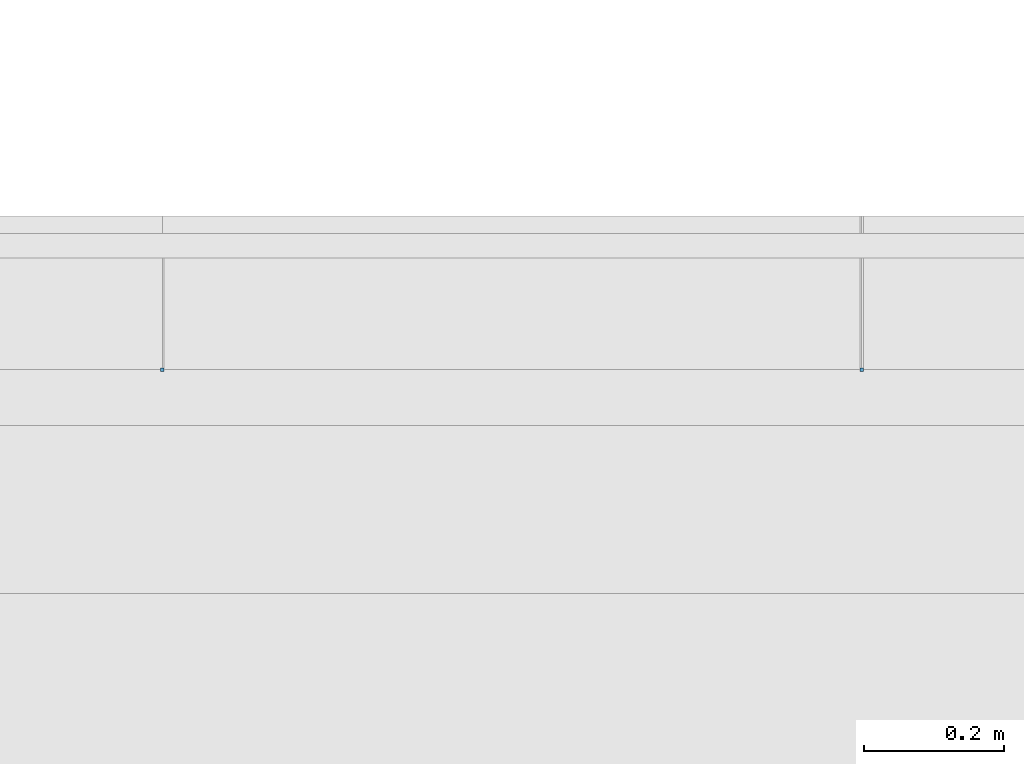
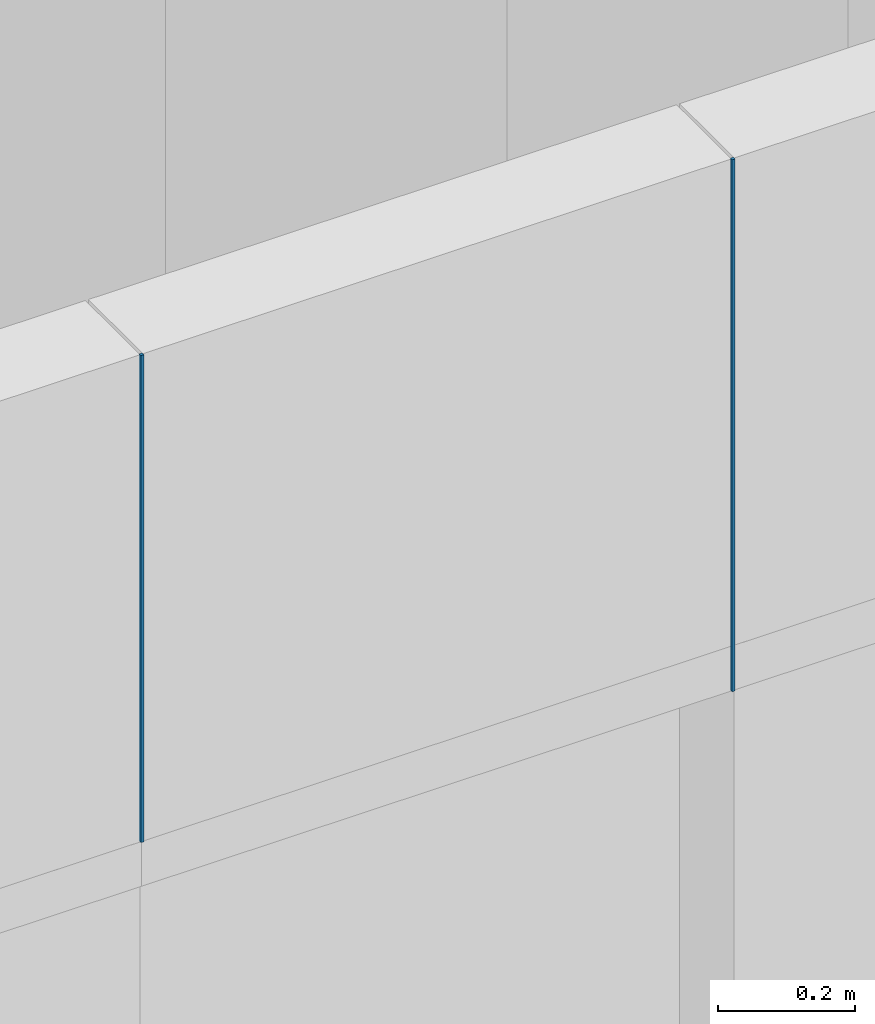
# One storey, part 204 of 302: 2 members, 1 element without a shape of its own.
"""IFC2X3 building model written with IfcOpenShell, lengths in metres."""

from ifc_helpers import new_model, entity, si_unit, converted_unit, derived_unit, direction, frame, frame_2d, origin, place, context, subcontext, project, spatial, rectangle, extrude, source, transform, mapped, material, type_object, type_shapes, element, aggregate, save


model = new_model("IFC2X3")

# Units and contexts
model_context = context("Model", 3, precision=1e-05, world=origin(), true_north=direction((6.12303176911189e-17, 1.0)))
body_context = subcontext(model_context, "Body", "Model", "MODEL_VIEW")
ifc_project = project(units=[si_unit("LENGTHUNIT", "METRE"), si_unit("AREAUNIT", "SQUARE_METRE"), si_unit("VOLUMEUNIT", "CUBIC_METRE"), converted_unit("PLANEANGLEUNIT", "DEGREE", entity("IfcRatioMeasure", 0.0174532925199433), si_unit("PLANEANGLEUNIT", "RADIAN"), dimensions=[0, 0, 0, 0, 0, 0, 0]), si_unit("MASSUNIT", "GRAM", prefix="KILO"), derived_unit("MASSDENSITYUNIT", [(si_unit("MASSUNIT", "GRAM", prefix="KILO"), 1), (si_unit("LENGTHUNIT", "METRE"), -3)]), derived_unit("MOMENTOFINERTIAUNIT", [(si_unit("LENGTHUNIT", "METRE"), 4)]), si_unit("TIMEUNIT", "SECOND"), si_unit("FREQUENCYUNIT", "HERTZ"), si_unit("THERMODYNAMICTEMPERATUREUNIT", "DEGREE_CELSIUS"), derived_unit("THERMALTRANSMITTANCEUNIT", [(si_unit("MASSUNIT", "GRAM", prefix="KILO"), 1), (si_unit("THERMODYNAMICTEMPERATUREUNIT", "KELVIN"), -1), (si_unit("TIMEUNIT", "SECOND"), -3)]), derived_unit("VOLUMETRICFLOWRATEUNIT", [(si_unit("LENGTHUNIT", "METRE"), 3), (si_unit("TIMEUNIT", "SECOND"), -1)]), si_unit("ELECTRICCURRENTUNIT", "AMPERE"), si_unit("ELECTRICVOLTAGEUNIT", "VOLT"), si_unit("POWERUNIT", "WATT"), si_unit("FORCEUNIT", "NEWTON", prefix="KILO"), si_unit("ILLUMINANCEUNIT", "LUX"), si_unit("LUMINOUSFLUXUNIT", "LUMEN"), si_unit("LUMINOUSINTENSITYUNIT", "CANDELA"), derived_unit("USERDEFINED", [(si_unit("MASSUNIT", "GRAM", prefix="KILO"), -1), (si_unit("LENGTHUNIT", "METRE"), -2), (si_unit("TIMEUNIT", "SECOND"), 3), (si_unit("LUMINOUSFLUXUNIT", "LUMEN"), 1)]), derived_unit("LINEARVELOCITYUNIT", [(si_unit("LENGTHUNIT", "METRE"), 1), (si_unit("TIMEUNIT", "SECOND"), -1)]), si_unit("PRESSUREUNIT", "PASCAL"), derived_unit("USERDEFINED", [(si_unit("LENGTHUNIT", "METRE"), -2), (si_unit("MASSUNIT", "GRAM", prefix="KILO"), 1), (si_unit("TIMEUNIT", "SECOND"), -2)]), derived_unit("LINEARFORCEUNIT", [(si_unit("MASSUNIT", "GRAM", prefix="KILO"), 1), (si_unit("LENGTHUNIT", "METRE"), 1), (si_unit("TIMEUNIT", "SECOND"), -2), (si_unit("LENGTHUNIT", "METRE"), -1)]), derived_unit("PLANARFORCEUNIT", [(si_unit("MASSUNIT", "GRAM", prefix="KILO"), 1), (si_unit("LENGTHUNIT", "METRE"), 1), (si_unit("TIMEUNIT", "SECOND"), -2), (si_unit("LENGTHUNIT", "METRE"), -2)])], contexts=[model_context])

# Site, building, storey
site_placement = place(None, origin())
site = spatial("IfcSite", under=ifc_project, at=site_placement, Name="Default", CompositionType="ELEMENT")
building_placement = place(site_placement, origin())
building = spatial("IfcBuilding", under=site, at=building_placement, CompositionType="ELEMENT")
storey_placement = place(building_placement, frame((0.0, 0.0, -1.3)))
storey = spatial("IfcBuildingStorey", under=building, at=storey_placement, Name="00_EG", CompositionType="ELEMENT", Elevation=-1.3)

# Curtain wall, members
curtain_wall_type = type_object("IfcCurtainWallType", Name="Fassade:Curtain Wall 1", PredefinedType="NOTDEFINED")
curtain_wall_placement = place(storey_placement, frame((0.0, 0.0, 1.3)))
curtain_wall = element("IfcCurtainWall", 1, at=curtain_wall_placement, inside=storey, type_object=curtain_wall_type, Name="Fassade:Curtain Wall 1", ObjectType="Fassade:Curtain Wall 1")
ifc_material = material(Name="Aluminium")
member_type_1 = type_object("IfcMemberType", Name="Rectangular Mullion:Paneele Spalt", PredefinedType="MULLION", material=ifc_material)
shared_shape_1 = source(origin(), body_context, "Body", "SweptSolid", [
    extrude(rectangle(XDim=0.005, YDim=0.005, at=frame_2d((0.0, -6.50521303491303e-19), x_axis=(1.0, 0.0))), frame((0.0, 0.0, -0.951252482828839), z_axis=(0.0, 0.0, 1.0), x_axis=(0.0, -1.0, 0.0)), (0.0, 0.0, 1.0), 0.951252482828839),
])
type_shapes(member_type_1, [shared_shape_1])
member_1_placement = place(storey_placement, frame((-211.610111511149, 45.578088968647, 10.1696475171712), z_axis=(0.0, 0.0, -1.0), x_axis=(-1.0, 0.0, 0.0)))
member_1 = element("IfcMember", 2, at=member_1_placement, type_object=member_type_1, material=ifc_material, Name="Rectangular Mullion:Paneele Spalt", ObjectType="Rectangular Mullion:Paneele Spalt", context=body_context, shape_type="MappedRepresentation", body=[
    mapped(shared_shape_1, transform((0.0, 0.0, 0.0), scale=1.0)),
])
member_type_2 = type_object("IfcMemberType", Name="Rectangular Mullion:Paneele Spalt", PredefinedType="MULLION", material=ifc_material)
shared_shape_2 = source(origin(), body_context, "Body", "SweptSolid", [
    extrude(rectangle(XDim=0.005, YDim=0.005, at=frame_2d((0.0, -6.50521303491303e-19), x_axis=(1.0, 0.0))), frame((0.0, 0.0, -0.871252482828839), z_axis=(0.0, 0.0, 1.0), x_axis=(0.0, -1.0, 0.0)), (0.0, 0.0, 1.0), 0.871252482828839),
])
type_shapes(member_type_2, [shared_shape_2])
member_2_placement = place(storey_placement, frame((-212.61011151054, 45.578088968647, 10.2496475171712), z_axis=(0.0, 0.0, -1.0), x_axis=(-1.0, 0.0, 0.0)))
member_2 = element("IfcMember", 3, at=member_2_placement, type_object=member_type_2, material=ifc_material, Name="Rectangular Mullion:Paneele Spalt", ObjectType="Rectangular Mullion:Paneele Spalt", context=body_context, shape_type="MappedRepresentation", body=[
    mapped(shared_shape_2, transform((0.0, 0.0, 0.0), scale=1.0)),
])
aggregate(curtain_wall, [member_1, member_2])

save(model, "model.ifc")
